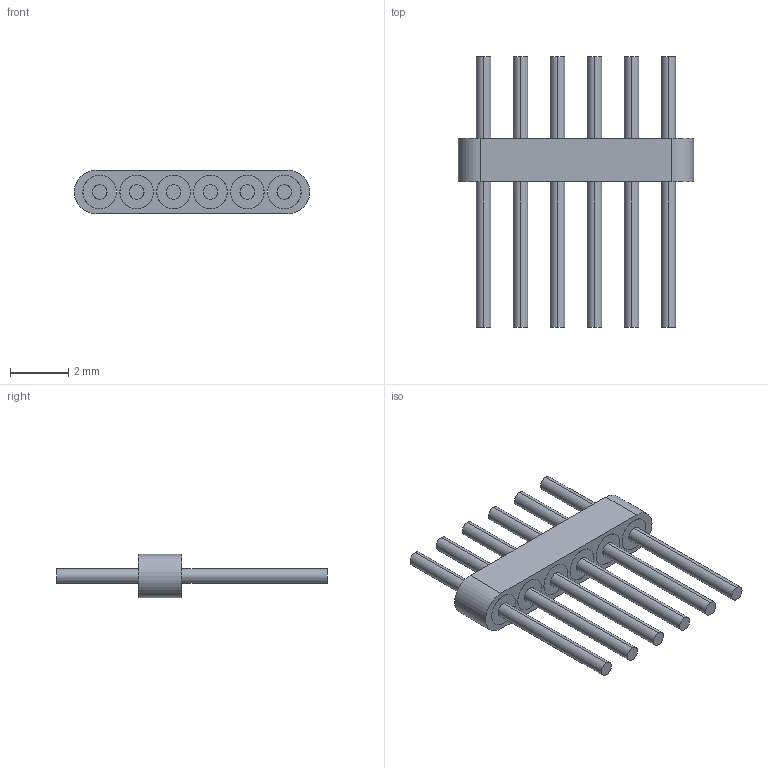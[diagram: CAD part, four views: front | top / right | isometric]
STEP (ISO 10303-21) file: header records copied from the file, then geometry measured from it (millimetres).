
FILE_DESCRIPTION (( 'STEP AP203' ), '1' );
FILE_NAME ('6о.STEP', '2023-11-09T01:41:34', ( 'China' ), ( 'Microsoft' ), 'SwSTEP 2.0', 'SolidWorks 2019', '' );
FILE_SCHEMA (( 'CONFIG_CONTROL_DESIGN' ));
Length unit declared in the file: millimetre
Products named in the file (1): 6о
Bounding box: 8.1 x 9.3 x 1.5 mm (x, y, z)
Volume: 26.5 mm3; surface area: 217.3 mm2
Topology: 13 solids, 13 shells, 78 faces, 156 edges, 104 vertices
Faces by surface type: cylinder 50, plane 28
Entity records: 2181 total; most frequent: DIRECTION 414, CARTESIAN_POINT 339, ORIENTED_EDGE 312, AXIS2_PLACEMENT_3D 179, EDGE_CURVE 156, VERTEX_POINT 104, EDGE_LOOP 102, CIRCLE 100
